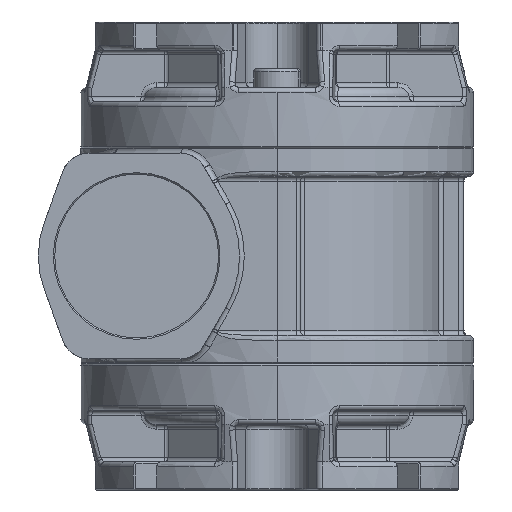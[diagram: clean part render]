
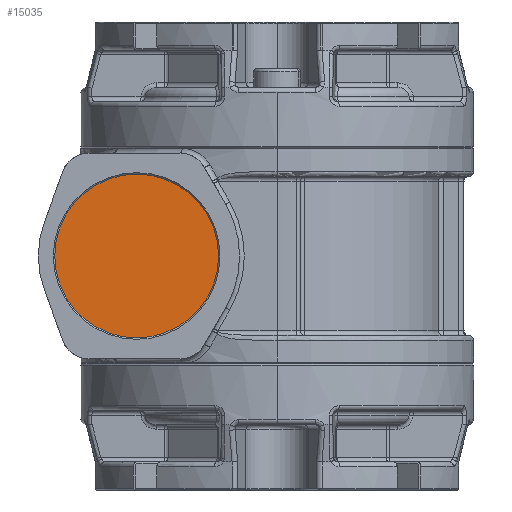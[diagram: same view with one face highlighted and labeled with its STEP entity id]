
A CAD part, left-side view. The second image highlights one B-rep face of the part: STEP entity #15035.
In plain terms, the highlighted planar face has unit normal (-1, 0, 0).
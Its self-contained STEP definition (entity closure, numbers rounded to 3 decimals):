
#15035 = ADVANCED_FACE ( 'NONE', ( #47957 ), #48107, .T. ) ;
#15038 = EDGE_LOOP ( 'NONE', ( #15040, #15547 ) ) ;
#15040 = ORIENTED_EDGE ( 'NONE', *, *, #15180, .F. ) ;
#15053 = VERTEX_POINT ( 'NONE', #48054 ) ;
#15180 = EDGE_CURVE ( 'NONE', #15181, #15053, #48617, .T. ) ;
#15181 = VERTEX_POINT ( 'NONE', #48591 ) ;
#15541 = EDGE_CURVE ( 'NONE', #15053, #15181, #49335, .T. ) ;
#15547 = ORIENTED_EDGE ( 'NONE', *, *, #15541, .F. ) ;
#47957 = FACE_OUTER_BOUND ( 'NONE', #15038, .T. ) ;
#48054 = CARTESIAN_POINT ( 'NONE',  ( -46., 0., 17.5 ) ) ;
#48094 = DIRECTION ( 'NONE',  ( 0., 0., 1. ) ) ;
#48096 = DIRECTION ( 'NONE',  ( -1., 0., 0. ) ) ;
#48098 = CARTESIAN_POINT ( 'NONE',  ( -46., 17.5, 0. ) ) ;
#48099 = AXIS2_PLACEMENT_3D ( 'NONE', #48098, #48096, #48094 ) ;
#48107 = PLANE ( 'NONE',  #48099 ) ;
#48591 = CARTESIAN_POINT ( 'NONE',  ( -46., 0., -17.5 ) ) ;
#48592 = DIRECTION ( 'NONE',  ( 0., 0., -1. ) ) ;
#48594 = DIRECTION ( 'NONE',  ( 1., 0., 0. ) ) ;
#48596 = CARTESIAN_POINT ( 'NONE',  ( -46., 0., 0. ) ) ;
#48599 = AXIS2_PLACEMENT_3D ( 'NONE', #48596, #48594, #48592 ) ;
#48617 = CIRCLE ( 'NONE', #48599, 17.5 ) ;
#49329 = DIRECTION ( 'NONE',  ( 0., 0., -1. ) ) ;
#49331 = DIRECTION ( 'NONE',  ( 1., 0., 0. ) ) ;
#49332 = CARTESIAN_POINT ( 'NONE',  ( -46., 0., 0. ) ) ;
#49333 = AXIS2_PLACEMENT_3D ( 'NONE', #49332, #49331, #49329 ) ;
#49335 = CIRCLE ( 'NONE', #49333, 17.5 ) ;
